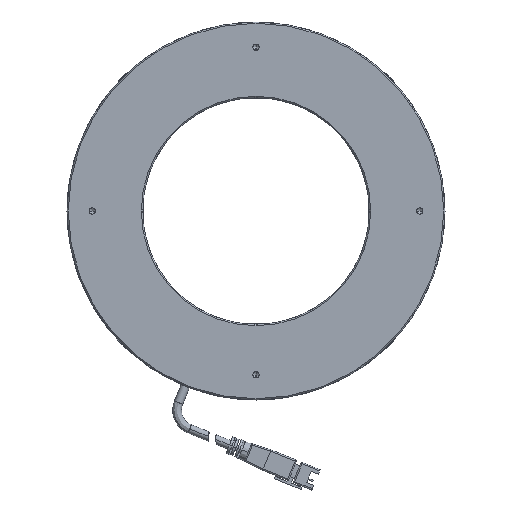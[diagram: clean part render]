
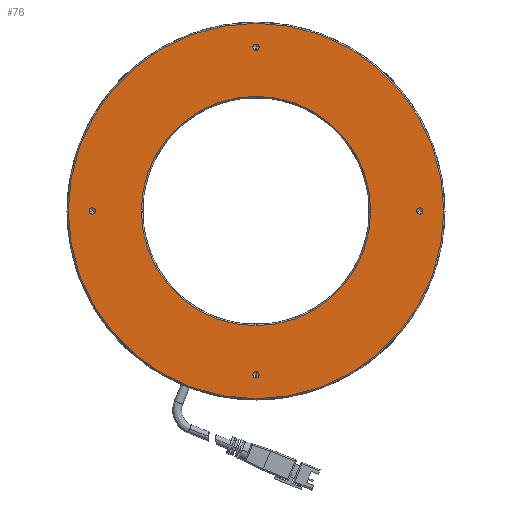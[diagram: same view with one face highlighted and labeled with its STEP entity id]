
A CAD part, front view. The second image highlights one B-rep face of the part: STEP entity #76.
In plain terms, the highlighted planar face has unit normal (0, -1, 0).
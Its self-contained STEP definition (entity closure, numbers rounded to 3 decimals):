
#16 = CIRCLE ( 'NONE', #858, 45.5 ) ;
#76 = ADVANCED_FACE ( 'NONE', ( #7674, #2557, #4595, #5565, #11778, #2482 ), #9573, .F. ) ;
#100 = EDGE_CURVE ( 'NONE', #9904, #9659, #5158, .T. ) ;
#226 = AXIS2_PLACEMENT_3D ( 'NONE', #1458, #13026, #3648 ) ;
#858 = AXIS2_PLACEMENT_3D ( 'NONE', #11997, #10965, #4609 ) ;
#1050 = CARTESIAN_POINT ( 'NONE',  ( -333.909, 266.172, 0. ) ) ;
#1090 = VERTEX_POINT ( 'NONE', #1798 ) ;
#1092 = CIRCLE ( 'NONE', #7425, 1.25 ) ;
#1218 = EDGE_CURVE ( 'NONE', #9659, #9904, #1379, .T. ) ;
#1258 = DIRECTION ( 'NONE',  ( 0., 0., 1. ) ) ;
#1379 = CIRCLE ( 'NONE', #11201, 1.25 ) ;
#1458 = CARTESIAN_POINT ( 'NONE',  ( -333.909, 266.172, 65. ) ) ;
#1529 = CIRCLE ( 'NONE', #226, 1.25 ) ;
#1798 = CARTESIAN_POINT ( 'NONE',  ( -397.659, 266.172, 0. ) ) ;
#1917 = VERTEX_POINT ( 'NONE', #10464 ) ;
#2014 = ORIENTED_EDGE ( 'NONE', *, *, #12866, .T. ) ;
#2463 = EDGE_CURVE ( 'NONE', #3974, #8000, #8372, .T. ) ;
#2482 = FACE_BOUND ( 'NONE', #13505, .T. ) ;
#2557 = FACE_BOUND ( 'NONE', #9993, .T. ) ;
#2730 = DIRECTION ( 'NONE',  ( 0., 0., -1. ) ) ;
#2767 = CARTESIAN_POINT ( 'NONE',  ( -333.909, 266.172, 0. ) ) ;
#2777 = AXIS2_PLACEMENT_3D ( 'NONE', #3947, #4912, #2730 ) ;
#2815 = ORIENTED_EDGE ( 'NONE', *, *, #7109, .F. ) ;
#3123 = DIRECTION ( 'NONE',  ( -1., 0., 0. ) ) ;
#3260 = EDGE_CURVE ( 'NONE', #5273, #1917, #7143, .T. ) ;
#3371 = CARTESIAN_POINT ( 'NONE',  ( -333.909, 266.172, 66.25 ) ) ;
#3579 = VERTEX_POINT ( 'NONE', #9609 ) ;
#3595 = EDGE_CURVE ( 'NONE', #1090, #12048, #6939, .T. ) ;
#3648 = DIRECTION ( 'NONE',  ( 0., 0., -1. ) ) ;
#3664 = AXIS2_PLACEMENT_3D ( 'NONE', #13173, #6885, #12282 ) ;
#3813 = CARTESIAN_POINT ( 'NONE',  ( -270.159, 266.172, 0. ) ) ;
#3947 = CARTESIAN_POINT ( 'NONE',  ( -333.909, 266.172, 65. ) ) ;
#3974 = VERTEX_POINT ( 'NONE', #9101 ) ;
#4178 = CARTESIAN_POINT ( 'NONE',  ( -267.659, 266.172, 0. ) ) ;
#4493 = EDGE_LOOP ( 'NONE', ( #9409, #4611 ) ) ;
#4595 = FACE_BOUND ( 'NONE', #4675, .T. ) ;
#4609 = DIRECTION ( 'NONE',  ( 0., 0., 1. ) ) ;
#4611 = ORIENTED_EDGE ( 'NONE', *, *, #6724, .F. ) ;
#4675 = EDGE_LOOP ( 'NONE', ( #12052, #12740 ) ) ;
#4770 = VERTEX_POINT ( 'NONE', #8444 ) ;
#4789 = DIRECTION ( 'NONE',  ( 0., 0., 1. ) ) ;
#4912 = DIRECTION ( 'NONE',  ( 0., -1., 0. ) ) ;
#5158 = CIRCLE ( 'NONE', #10177, 1.25 ) ;
#5249 = CIRCLE ( 'NONE', #8091, 74.5 ) ;
#5273 = VERTEX_POINT ( 'NONE', #3371 ) ;
#5486 = CARTESIAN_POINT ( 'NONE',  ( -268.909, 266.172, 0. ) ) ;
#5565 = FACE_BOUND ( 'NONE', #10099, .T. ) ;
#5672 = CARTESIAN_POINT ( 'NONE',  ( -400.159, 266.172, 0. ) ) ;
#5700 = DIRECTION ( 'NONE',  ( 0., -1., 0. ) ) ;
#5732 = DIRECTION ( 'NONE',  ( 0., -1., 0. ) ) ;
#5807 = EDGE_CURVE ( 'NONE', #13422, #3579, #11948, .T. ) ;
#5828 = CARTESIAN_POINT ( 'NONE',  ( -333.909, 266.172, -65. ) ) ;
#6152 = CARTESIAN_POINT ( 'NONE',  ( -333.909, 266.172, -45.5 ) ) ;
#6216 = DIRECTION ( 'NONE',  ( 0., 1., 0. ) ) ;
#6288 = DIRECTION ( 'NONE',  ( 0., -1., 0. ) ) ;
#6364 = CIRCLE ( 'NONE', #12692, 45.5 ) ;
#6425 = EDGE_LOOP ( 'NONE', ( #2815, #10231 ) ) ;
#6663 = DIRECTION ( 'NONE',  ( 0., 0., 1. ) ) ;
#6724 = EDGE_CURVE ( 'NONE', #12048, #1090, #8735, .T. ) ;
#6885 = DIRECTION ( 'NONE',  ( 0., -1., 0. ) ) ;
#6939 = CIRCLE ( 'NONE', #3664, 1.25 ) ;
#7109 = EDGE_CURVE ( 'NONE', #8000, #3974, #5249, .T. ) ;
#7143 = CIRCLE ( 'NONE', #2777, 1.25 ) ;
#7371 = CARTESIAN_POINT ( 'NONE',  ( -268.909, 266.172, 0. ) ) ;
#7425 = AXIS2_PLACEMENT_3D ( 'NONE', #7954, #10068, #6663 ) ;
#7674 = FACE_BOUND ( 'NONE', #4493, .T. ) ;
#7928 = ORIENTED_EDGE ( 'NONE', *, *, #5807, .F. ) ;
#7954 = CARTESIAN_POINT ( 'NONE',  ( -333.909, 266.172, -65. ) ) ;
#7965 = DIRECTION ( 'NONE',  ( 0., 1., 0. ) ) ;
#8000 = VERTEX_POINT ( 'NONE', #13072 ) ;
#8091 = AXIS2_PLACEMENT_3D ( 'NONE', #2767, #7965, #9806 ) ;
#8372 = CIRCLE ( 'NONE', #10125, 74.5 ) ;
#8439 = AXIS2_PLACEMENT_3D ( 'NONE', #5828, #9987, #4789 ) ;
#8444 = CARTESIAN_POINT ( 'NONE',  ( -333.909, 266.172, 45.5 ) ) ;
#8735 = CIRCLE ( 'NONE', #11805, 1.25 ) ;
#8754 = DIRECTION ( 'NONE',  ( 0., 1., 0. ) ) ;
#8915 = ORIENTED_EDGE ( 'NONE', *, *, #3260, .F. ) ;
#9093 = CARTESIAN_POINT ( 'NONE',  ( -333.909, 266.172, 0. ) ) ;
#9101 = CARTESIAN_POINT ( 'NONE',  ( -333.909, 266.172, -74.5 ) ) ;
#9227 = DIRECTION ( 'NONE',  ( 0., 0., 1. ) ) ;
#9409 = ORIENTED_EDGE ( 'NONE', *, *, #3595, .F. ) ;
#9573 = PLANE ( 'NONE',  #11072 ) ;
#9609 = CARTESIAN_POINT ( 'NONE',  ( -333.909, 266.172, -63.75 ) ) ;
#9659 = VERTEX_POINT ( 'NONE', #3813 ) ;
#9791 = CARTESIAN_POINT ( 'NONE',  ( 0., 266.172, 0. ) ) ;
#9806 = DIRECTION ( 'NONE',  ( 0., 0., 1. ) ) ;
#9857 = DIRECTION ( 'NONE',  ( -1., 0., 0. ) ) ;
#9904 = VERTEX_POINT ( 'NONE', #4178 ) ;
#9960 = CARTESIAN_POINT ( 'NONE',  ( -398.909, 266.172, 0. ) ) ;
#9987 = DIRECTION ( 'NONE',  ( 0., -1., 0. ) ) ;
#9993 = EDGE_LOOP ( 'NONE', ( #13190, #7928 ) ) ;
#10068 = DIRECTION ( 'NONE',  ( 0., -1., 0. ) ) ;
#10099 = EDGE_LOOP ( 'NONE', ( #11065, #8915 ) ) ;
#10125 = AXIS2_PLACEMENT_3D ( 'NONE', #1050, #6216, #1258 ) ;
#10177 = AXIS2_PLACEMENT_3D ( 'NONE', #5486, #5700, #9857 ) ;
#10231 = ORIENTED_EDGE ( 'NONE', *, *, #2463, .F. ) ;
#10464 = CARTESIAN_POINT ( 'NONE',  ( -333.909, 266.172, 63.75 ) ) ;
#10780 = VERTEX_POINT ( 'NONE', #6152 ) ;
#10895 = DIRECTION ( 'NONE',  ( 0., 0., 1. ) ) ;
#10965 = DIRECTION ( 'NONE',  ( 0., 1., 0. ) ) ;
#11065 = ORIENTED_EDGE ( 'NONE', *, *, #12949, .F. ) ;
#11072 = AXIS2_PLACEMENT_3D ( 'NONE', #9791, #8754, #10895 ) ;
#11201 = AXIS2_PLACEMENT_3D ( 'NONE', #7371, #6288, #3123 ) ;
#11778 = FACE_OUTER_BOUND ( 'NONE', #6425, .T. ) ;
#11805 = AXIS2_PLACEMENT_3D ( 'NONE', #9960, #5732, #13049 ) ;
#11863 = ORIENTED_EDGE ( 'NONE', *, *, #13032, .T. ) ;
#11948 = CIRCLE ( 'NONE', #8439, 1.25 ) ;
#11997 = CARTESIAN_POINT ( 'NONE',  ( -333.909, 266.172, 0. ) ) ;
#12048 = VERTEX_POINT ( 'NONE', #5672 ) ;
#12052 = ORIENTED_EDGE ( 'NONE', *, *, #1218, .F. ) ;
#12262 = DIRECTION ( 'NONE',  ( 0., 1., 0. ) ) ;
#12282 = DIRECTION ( 'NONE',  ( 1., 0., 0. ) ) ;
#12388 = CARTESIAN_POINT ( 'NONE',  ( -333.909, 266.172, -66.25 ) ) ;
#12692 = AXIS2_PLACEMENT_3D ( 'NONE', #9093, #12262, #9227 ) ;
#12740 = ORIENTED_EDGE ( 'NONE', *, *, #100, .F. ) ;
#12866 = EDGE_CURVE ( 'NONE', #4770, #10780, #16, .T. ) ;
#12902 = EDGE_CURVE ( 'NONE', #3579, #13422, #1092, .T. ) ;
#12949 = EDGE_CURVE ( 'NONE', #1917, #5273, #1529, .T. ) ;
#13026 = DIRECTION ( 'NONE',  ( 0., -1., 0. ) ) ;
#13032 = EDGE_CURVE ( 'NONE', #10780, #4770, #6364, .T. ) ;
#13049 = DIRECTION ( 'NONE',  ( 1., 0., 0. ) ) ;
#13072 = CARTESIAN_POINT ( 'NONE',  ( -333.909, 266.172, 74.5 ) ) ;
#13173 = CARTESIAN_POINT ( 'NONE',  ( -398.909, 266.172, 0. ) ) ;
#13190 = ORIENTED_EDGE ( 'NONE', *, *, #12902, .F. ) ;
#13422 = VERTEX_POINT ( 'NONE', #12388 ) ;
#13505 = EDGE_LOOP ( 'NONE', ( #11863, #2014 ) ) ;
